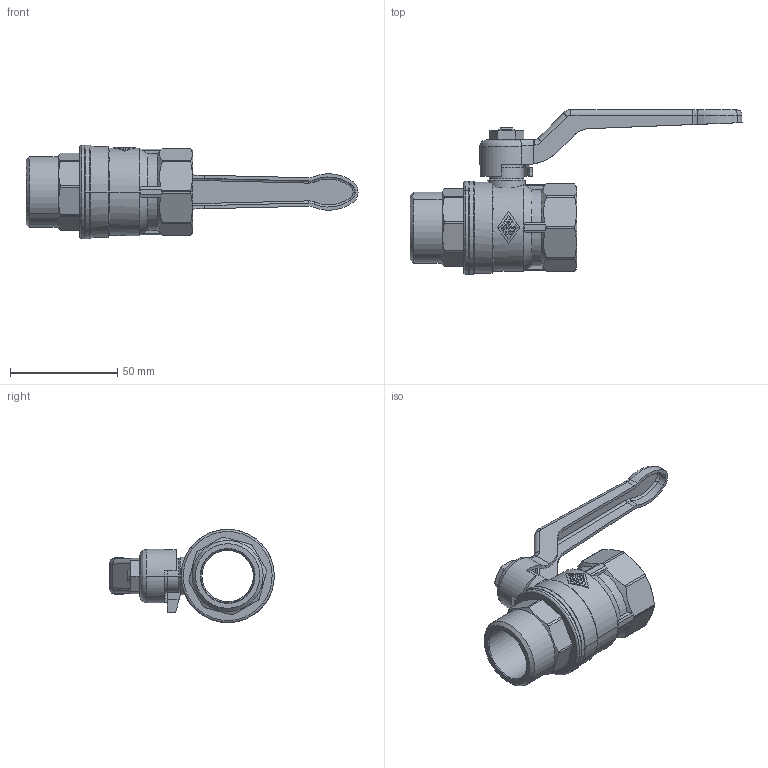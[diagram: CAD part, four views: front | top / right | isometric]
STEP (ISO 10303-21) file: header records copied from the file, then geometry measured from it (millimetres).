
FILE_DESCRIPTION(('OneSpaceDesigner STEP Export'),'2;1');
FILE_NAME('1501060000.stp','2007-10-08T11:24:02',(''),(''),'OneSpace Designer STEP processor for AP214 (Solid Model)','OneSpace Modeling 15.00B 25-Jun-2007 (C) CoCreate Software GmbH','');
FILE_SCHEMA(('AUTOMOTIVE_DESIGN { 1 0 10303 214 1 1 1 1 }'));
Length unit declared in the file: millimetre
Products named in the file (2): 1501060000
Assembly tree (1 placements, depth 2):
  1501060000
    1501060000
Bounding box: 154.83 x 76.75 x 43.5 mm (x, y, z)
Volume: 59318.5 mm3; surface area: 28014.9 mm2
Topology: 1 solids, 3 shells, 466 faces, 1215 edges, 771 vertices
Faces by surface type: plane 182, cylinder 170, cone 77, torus 16, bspline 16, extrusion 5
Entity records: 22441 total; most frequent: CARTESIAN_POINT 11219, ORIENTED_EDGE 2426, DIRECTION 1690, EDGE_CURVE 1213, VERTEX_POINT 771, AXIS2_PLACEMENT_3D 564, VECTOR 562, LINE 557
